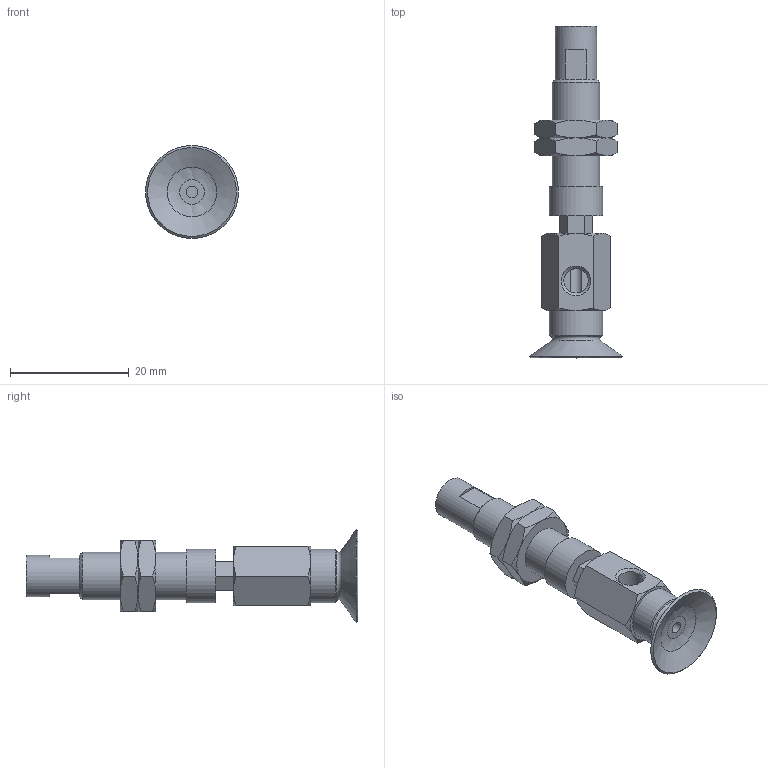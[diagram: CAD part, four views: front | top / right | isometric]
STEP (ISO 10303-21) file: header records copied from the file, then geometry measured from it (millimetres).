
FILE_DESCRIPTION(('STEP AP203'),'1');
FILE_NAME('.stp','2025-04-10T07:29:05',(' '),(' '),'Spatial InterOp 3D',' ',' ');
FILE_SCHEMA(('CONFIG_CONTROL_DESIGN'));
Length unit declared in the file: millimetre
Products named in the file (6): BNABPFYH-15A-3-※; CONNECTOR-H-15A-3; Nut-15A-3-h; NAPFTH-15A-3-FBODY; NAPFTH-15A-3-MBODY; BPFG-15A-※
Assembly tree (6 placements, depth 2):
  BNABPFYH-15A-3-※
    CONNECTOR-H-15A-3
    Nut-15A-3-h  x2
    NAPFTH-15A-3-FBODY
    NAPFTH-15A-3-MBODY
    BPFG-15A-※
Bounding box: 15.7 x 56 x 15.7 mm (x, y, z)
Volume: 3498.5 mm3; surface area: 4282.1 mm2
Topology: 6 solids, 6 shells, 139 faces, 301 edges, 183 vertices
Faces by surface type: plane 63, cone 51, cylinder 15, torus 9, bspline 1
Full cylindrical faces by diameter (mm): 2 x2, 4 x2, 4.134 x2, 5 x1, 6 x2, 7 x1, 7.188 x2, 8 x1, 9 x2
Entity records: 3467 total; most frequent: CARTESIAN_POINT 854, DIRECTION 478, ORIENTED_EDGE 418, EDGE_CURVE 209, AXIS2_PLACEMENT_3D 201, EDGE_LOOP 170, VERTEX_POINT 147, FACE_OUTER_BOUND 140
